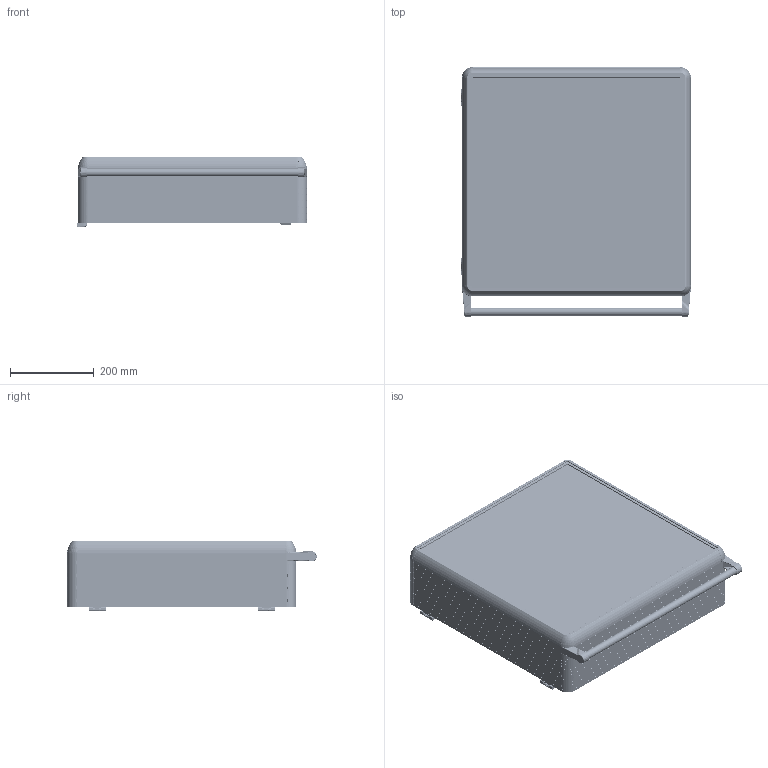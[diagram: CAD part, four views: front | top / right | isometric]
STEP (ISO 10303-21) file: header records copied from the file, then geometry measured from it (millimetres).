
FILE_DESCRIPTION (( 'STEP AP214' ), '1' );
FILE_NAME ('1500-0112.STEP', '2022-09-01T08:42:19', ( '' ), ( '' ), 'SwSTEP 2.0', 'SolidWorks 2022', '' );
FILE_SCHEMA (( 'AUTOMOTIVE_DESIGN' ));
Length unit declared in the file: millimetre
Products named in the file (8): 500X500; 1500-0112; ECO1500-0100(SAÐ); boru_525; HPECO-150-001_495; ECO1500-0000; ARKA_KAPAK_500X500; ECO1500-0100(SOL)
Assembly tree (11 placements, depth 2):
  1500-0112
    500X500
    ARKA_KAPAK_500X500
    HPECO-150-001_495  x4
    ECO1500-0000  x2
    ECO1500-0100(SOL)
    boru_525
    ECO1500-0100(SAÐ)
Bounding box: 549.03 x 595.81 x 169.15 mm (x, y, z)
Volume: 3256734.4 mm3; surface area: 2824904.3 mm2
Topology: 43 solids, 93 shells, 10953 faces, 28490 edges, 17290 vertices
Faces by surface type: plane 3591, cylinder 3038, bspline 2912, cone 782, torus 496, sphere 134
Entity records: 392106 total; most frequent: CARTESIAN_POINT 121477, ORIENTED_EDGE 42702, DIRECTION 33265, EDGE_CURVE 21351, VERTEX_POINT 12993, AXIS2_PLACEMENT_3D 12361, EDGE_LOOP 8580, VECTOR 8543
